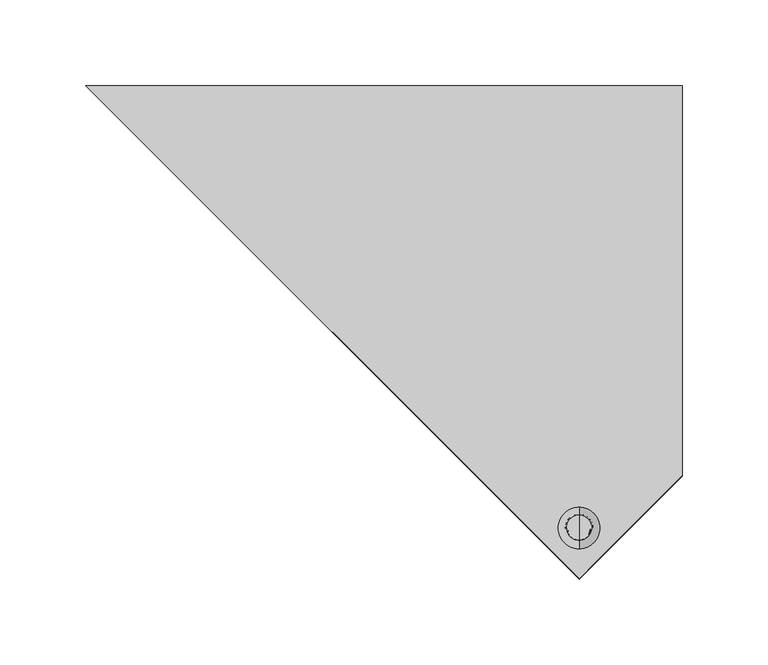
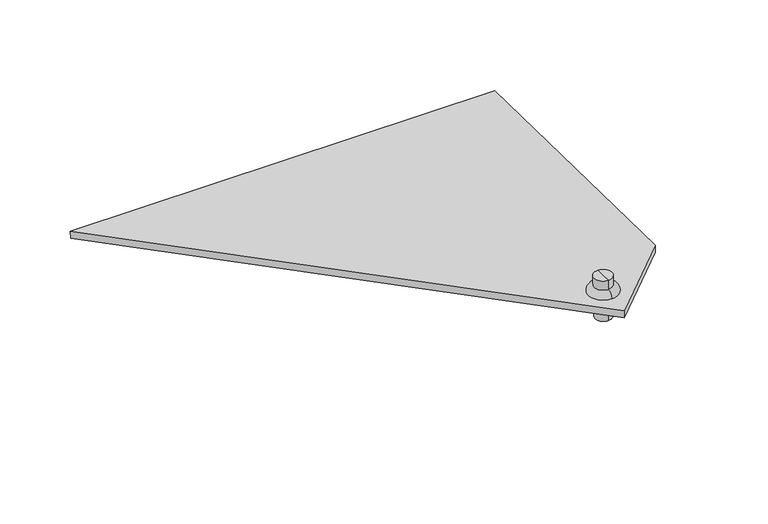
"""IFC4 building model written with IfcOpenShell, lengths in millimetres: proxy geometry, Roofing_Panels_SunStyle_Tuile_Coin-Haut-Petit-Droit : Coin Haut Petit Droit -  Terracotta."""

from ifc_helpers import new_model, si_unit, point, frame, frame_2d, origin, place, context, project, spatial, polyline, circle_curve, ellipse_curve, trimmed, segment, composite_curve, outline, extrude, source, transform, mapped, element, save
from ifc_brep_helpers import plane_surface, cylinder_surface, revolved_surface, advanced_brep


def generic_models_ae19c19d(model_context):
    return source(origin(), model_context, "Body", "SolidModel", [
        advanced_brep(
        [(0.0, -592.202006, 26.2215343), (0.0, -578.8689254, 25.9982384), (0.0, -579.2372345, 4.0063691), (0.0, -592.5703151, 4.229665), (0.0, -597.7012348, 26.3136327), (0.0, -573.3696966, 25.90614), (0.0, -592.7522385, 31.2274395), (0.0, -578.1513756, 30.9829114), (0.0, -585.3177786, 39.1080636), (0.0, -578.0173471, 38.9857996), (0.0, -592.6182101, 39.2303277), (0.0, -585.9037748, 4.118017)],
        [
            (0, 1, circle_curve(frame((0.0, -585.5354657, 26.1098864), z_axis=(0.0, -0.016745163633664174, -0.9998597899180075), x_axis=(0.0, 0.9998597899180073, -0.01674516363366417)), 6.6674751)),
            (1, 2),
            (2, 3, circle_curve(frame((0.0, -585.9037748, 4.118017), z_axis=(0.0, 0.016745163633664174, 0.9998597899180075), x_axis=(0.0, 0.9998597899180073, -0.01674516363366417)), 6.6674751)),
            (3, 0),
            (1, 0, circle_curve(frame((0.0, -585.5354657, 26.1098864), z_axis=(0.0, -0.016745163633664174, -0.9998597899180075), x_axis=(0.0, 0.9998597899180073, -0.01674516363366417)), 6.6674751)),
            (3, 2, circle_curve(frame((0.0, -585.9037748, 4.118017), z_axis=(0.0, 0.016745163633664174, 0.9998597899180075), x_axis=(0.0, 0.9998597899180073, -0.01674516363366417)), 6.6674751)),
            (4, 5, circle_curve(frame((0.0, -585.5354657, 26.1098864), z_axis=(0.0, -0.016745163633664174, -0.9998597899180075), x_axis=(0.0, 0.9998597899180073, -0.01674516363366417)), 12.1674751)),
            (5, 1),
            (0, 4),
            (5, 4, circle_curve(frame((0.0, -585.5354657, 26.1098864), z_axis=(0.0, -0.016745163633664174, -0.9998597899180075), x_axis=(0.0, 0.9998597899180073, -0.01674516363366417)), 12.1674751)),
            (6, 7, circle_curve(frame((0.0, -585.451807, 31.1051755), z_axis=(0.0, -0.016745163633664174, -0.9998597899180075), x_axis=(0.0, 0.9998597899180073, -0.01674516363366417)), 7.3014552)),
            (7, 5, circle_curve(frame((0.0, -578.4555735, 25.90614), z_axis=(-1.0, 0.0, 0.0), x_axis=(0.0, -1.0, 0.0)), 5.0858769)),
            (4, 6, circle_curve(frame((0.0, -592.6182101, 26.1433289), z_axis=(-1.0, 0.0, 0.0), x_axis=(0.0, 0.9994391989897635, -0.03348563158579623)), 5.0858769)),
            (7, 6, circle_curve(frame((0.0, -585.451807, 31.1051755), z_axis=(0.0, -0.016745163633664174, -0.9998597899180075), x_axis=(0.0, 0.9998597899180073, -0.01674516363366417)), 7.3014552)),
            (8, 9),
            (9, 10, circle_curve(frame((0.0, -585.3177786, 39.1080636), z_axis=(0.0, 0.016745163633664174, 0.9998597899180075), x_axis=(0.0, 0.9998597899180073, -0.01674516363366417)), 7.3014552)),
            (10, 8),
            (10, 9, circle_curve(frame((0.0, -585.3177786, 39.1080636), z_axis=(0.0, 0.016745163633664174, 0.9998597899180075), x_axis=(0.0, 0.9998597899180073, -0.01674516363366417)), 7.3014552)),
            (2, 11),
            (11, 3),
            (9, 7),
            (6, 10),
        ],
        [
            cylinder_surface(frame((0.0, -585.3177786, 39.1080636), z_axis=(0.0, 0.01674516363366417, 0.9998597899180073), x_axis=(0.0, 0.9998597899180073, -0.01674516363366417)), 6.6674751),
            plane_surface(frame((0.0, -585.5354657, 26.1098864), z_axis=(0.0, -0.016745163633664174, -0.9998597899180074), x_axis=(0.0, 0.9998597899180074, -0.016745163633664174))),
            revolved_surface(trimmed(ellipse_curve(frame((0.0, -578.4555735, 25.90614), z_axis=(1.0, 0.0, 0.0), x_axis=(0.0, -1.0, 0.0)), 5.0858769, 5.0858769), [point((0.0, -573.3696966, 25.90614))], [point((0.0, -578.1513756, 30.9829114))], True, "CARTESIAN"), (0.0, -585.3177786, 39.1080636), (0.0, 0.01674516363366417, 0.9998597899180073)),
            plane_surface(frame((0.0, -585.3177786, 39.1080636), z_axis=(0.0, 0.016745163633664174, 0.9998597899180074), x_axis=(0.0, 0.9998597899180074, -0.016745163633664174))),
            plane_surface(frame((0.0, -585.9037748, 4.118017), z_axis=(0.0, -0.016745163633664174, -0.9998597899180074), x_axis=(0.0, 0.9998597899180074, -0.016745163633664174))),
            cylinder_surface(frame((0.0, -585.3177786, 39.1080636), z_axis=(0.0, 0.01674516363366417, 0.9998597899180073), x_axis=(0.0, 0.9998597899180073, -0.01674516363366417)), 7.3014552),
        ],
        [
            (0, [[1, 2, 3, 4]]),
            (0, [[5, -4, 6, -2]]),
            (1, [[7, 8, -1, 9]]),
            (1, [[10, -9, -5, -8]]),
            (2, [[11, 12, -7, 13]]),
            (2, [[14, -13, -10, -12]]),
            (3, [[15, 16, 17]]),
            (3, [[-17, 18, -15]]),
            (4, [[-3, 19, 20]]),
            (4, [[-6, -20, -19]]),
            (5, [[-16, 21, -11, 22]]),
            (5, [[-18, -22, -14, -21]]),
        ],
    ),
        extrude(outline(polyline([(1110.1751095, 0.0), (1170.2701138, -60.1034314), (882.835905, -347.5779469), (882.835905, 0.0), (1110.1751095, 0.0)]), holes=[composite_curve([segment(trimmed(circle_curve(frame_2d((1140.5911678, -60.1037539)), 8.0), [point((1140.5911678, -68.1037539))], [point((1140.5911678, -52.1037539))], True, "CARTESIAN"), True, "CONTINUOUS"), segment(trimmed(circle_curve(frame_2d((1140.5911678, -60.1037539)), 8.0), [point((1140.5911678, -52.1037539))], [point((1140.5911678, -68.1037539))], True, "CARTESIAN"), True, "CONTINUOUS")], self_intersect=False)]), frame((60.1037539, 554.7953932, 1.0113405), z_axis=(0.0, 0.01674516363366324, 0.9998597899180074), x_axis=(0.0, -0.9998597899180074, 0.01674516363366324)), (0.0, 0.0, 1.0), 6.0),
    ])


if __name__ == "__main__":
    model = new_model("IFC4")
    model_context = context("Model", 3, world=origin())
    ifc_project = project(units=[si_unit("LENGTHUNIT", "METRE", prefix="MILLI")], contexts=[model_context])
    site = spatial("IfcSite", under=ifc_project)
    building = spatial("IfcBuilding", under=site)
    placement = place(None, origin())
    generic_models_shape = generic_models_ae19c19d(model_context)
    element("IfcBuildingElementProxy", 1, Name="Roofing_Panels_SunStyle_Tuile_Coin-Haut-Petit-Droit : Coin Haut Petit Droit -  Terracotta", ObjectType="Roofing_Panels_SunStyle_Tuile_Coin-Haut-Petit-Droit : Coin Haut Petit Droit -  Terracotta", at=placement, inside=building, context=model_context, shape_type="MappedRepresentation", body=[
        mapped(generic_models_shape, transform((0.0, 0.0, 0.0), x_axis=(1.0, 0.0, 0.0), y_axis=(0.0, 1.0, 0.0), z_axis=(0.0, 0.0, 1.0))),
    ])
    save(model, "model.ifc")
